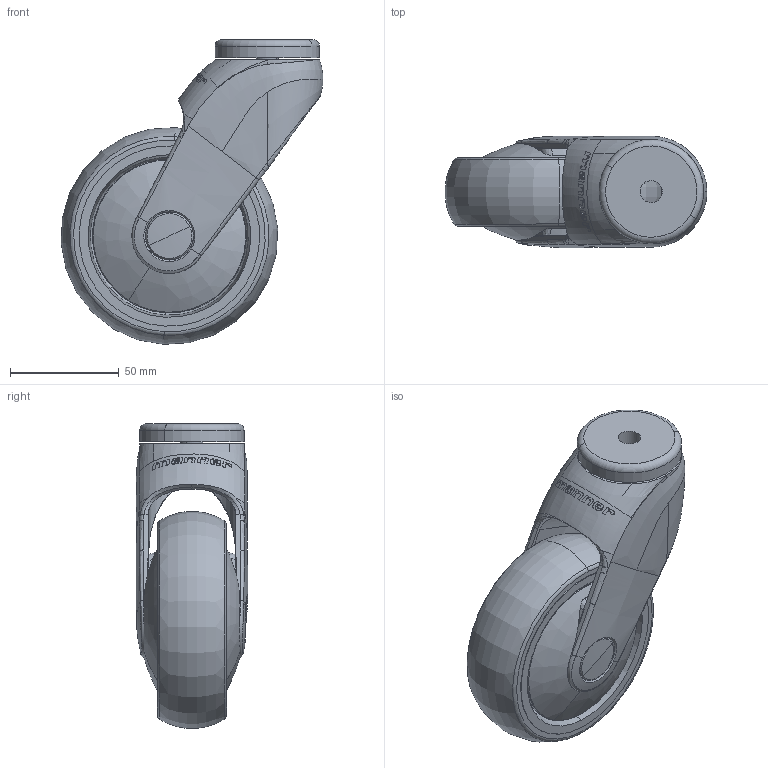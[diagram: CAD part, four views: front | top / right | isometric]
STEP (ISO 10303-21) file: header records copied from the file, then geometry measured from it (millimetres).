
FILE_DESCRIPTION (( 'STEP AP203' ), '1' );
FILE_NAME ('301723.STEP', '2010-03-18T05:06:54', ( ' ' ), ( ' ' ), 'SwSTEP 2.0', 'SolidWorks 2007', '' );
FILE_SCHEMA (( 'CONFIG_CONTROL_DESIGN' ));
Length unit declared in the file: millimetre
Products named in the file (1): 301723
Bounding box: 120.38 x 51.24 x 140.12 mm (x, y, z)
Surface area: 65451 mm2 (no closed solid volume)
Topology: 0 solids, 12 shells, 270 faces, 1518 edges, 1230 vertices
Faces by surface type: bspline 126, plane 65, cylinder 33, torus 24, cone 20, sphere 2
Entity records: 50502 total; most frequent: CARTESIAN_POINT 41152, ORIENTED_EDGE 2768, EDGE_CURVE 1512, VERTEX_POINT 1230, B_SPLINE_CURVE_WITH_KNOTS 1103, DIRECTION 778, AXIS2_PLACEMENT_3D 312, EDGE_LOOP 294
